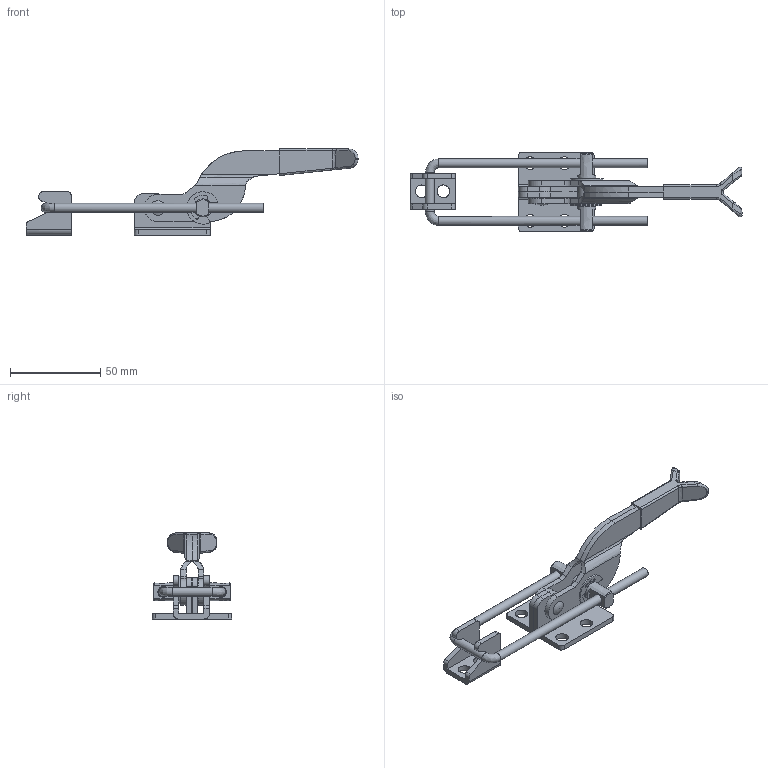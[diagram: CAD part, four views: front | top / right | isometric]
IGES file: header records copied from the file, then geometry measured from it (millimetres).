
Global section: file name: DR_C-032-42F; native system: Autodesk Inventor 2015; preprocessor: unknown; author: Administrator; date: 20180302.101758; units: millimetre
Bounding box: 184.15 x 44 x 47.7 mm (x, y, z)
Volume: 33224.4 mm3; surface area: 30550.3 mm2
Topology: 11 solids, 11 shells, 273 faces, 722 edges, 475 vertices
Faces by surface type: bspline 273
